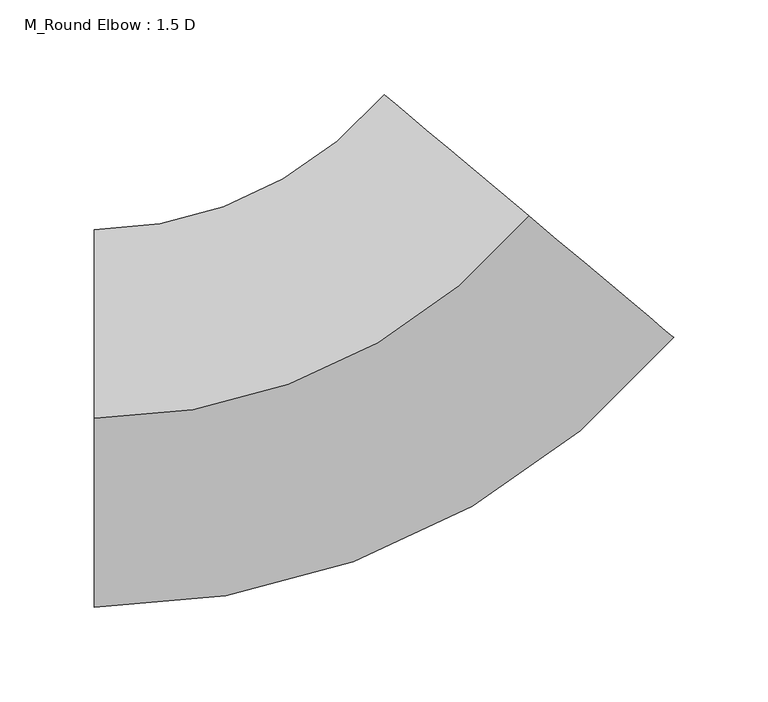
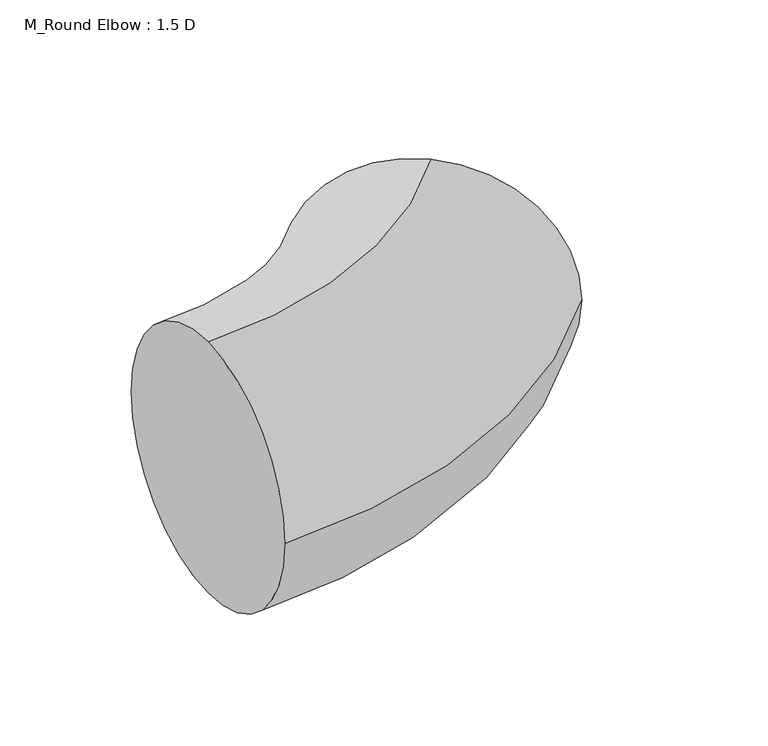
"""IFC4 building model written with IfcOpenShell, lengths in millimetres: duct fitting geometry, M_Round Elbow : 1.5 D."""

from ifc_helpers import new_model, si_unit, point, frame, origin, place, context, project, spatial, circle_curve, ellipse_curve, trimmed, source, transform, mapped, element, save
from ifc_brep_helpers import plane_surface, revolved_surface, advanced_brep


def m_round_elbow_1_5_d_4104341f(model_context):
    return source(origin(), model_context, "Body", "AdvancedBrep", [
        advanced_brep(
        [(-139.8922974, 0.0, 100.0), (-139.8922974, 100.0, 0.0), (-139.8922974, 0.0, -100.0), (-139.8922974, -100.0, 0.0), (89.9210355, 107.1637171, 100.0), (166.5254798, 42.8849561, 0.0), (89.9210355, 107.1637171, -100.0), (13.3165912, 171.4424781, 0.0)],
        [
            (0, 1, circle_curve(frame((-139.8922974, 0.0, 0.0), z_axis=(-1.0, 0.0, 0.0), x_axis=(0.0, 1.0, 0.0)), 100.0)),
            (1, 2, circle_curve(frame((-139.8922974, 0.0, 0.0), z_axis=(-1.0, 0.0, 0.0), x_axis=(0.0, 1.0, 0.0)), 100.0)),
            (2, 3, circle_curve(frame((-139.8922974, 0.0, 0.0), z_axis=(-1.0, 0.0, 0.0), x_axis=(0.0, 1.0, 0.0)), 100.0)),
            (3, 0, circle_curve(frame((-139.8922974, 0.0, 0.0), z_axis=(-1.0, 0.0, 0.0), x_axis=(0.0, 1.0, 0.0)), 100.0)),
            (4, 5, circle_curve(frame((89.9210355, 107.1637171, 0.0), z_axis=(0.6427876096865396, 0.7660444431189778, 0.0), x_axis=(-0.7660444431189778, 0.6427876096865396, 0.0)), 100.0)),
            (5, 6, circle_curve(frame((89.9210355, 107.1637171, 0.0), z_axis=(0.6427876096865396, 0.7660444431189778, 0.0), x_axis=(-0.7660444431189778, 0.6427876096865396, 0.0)), 100.0)),
            (6, 7, circle_curve(frame((89.9210355, 107.1637171, 0.0), z_axis=(0.6427876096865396, 0.7660444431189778, 0.0), x_axis=(-0.7660444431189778, 0.6427876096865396, 0.0)), 100.0)),
            (7, 4, circle_curve(frame((89.9210355, 107.1637171, 0.0), z_axis=(0.6427876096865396, 0.7660444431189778, 0.0), x_axis=(-0.7660444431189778, 0.6427876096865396, 0.0)), 100.0)),
            (7, 1, circle_curve(frame((-139.8922974, 300.0, 0.0), z_axis=(0.0, 0.0, -1.0), x_axis=(0.0, -1.0, 0.0)), 200.0)),
            (0, 4, circle_curve(frame((-139.8922974, 300.0, 100.0), z_axis=(0.0, 0.0, 1.0), x_axis=(0.0, -1.0, 0.0)), 300.0)),
            (6, 2, circle_curve(frame((-139.8922974, 300.0, -100.0), z_axis=(0.0, 0.0, -1.0), x_axis=(0.0, -1.0, 0.0)), 300.0)),
            (5, 3, circle_curve(frame((-139.8922974, 300.0, 0.0), z_axis=(0.0, 0.0, -1.0), x_axis=(0.0, -1.0, 0.0)), 400.0)),
        ],
        [
            plane_surface(frame((-139.8922974, 0.0, 0.0), z_axis=(-1.0, 0.0, 0.0), x_axis=(0.0, 0.0, 1.0))),
            plane_surface(frame((89.9210355, 107.1637171, 0.0), z_axis=(0.6427876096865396, 0.7660444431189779, 0.0), x_axis=(0.0, 0.0, 1.0))),
            revolved_surface(trimmed(ellipse_curve(frame((-139.8922974, 0.0, 0.0), z_axis=(-1.0, 0.0, 0.0), x_axis=(0.0, 1.0, 0.0)), 100.0, 100.0), [point((-139.8922974, 0.0, 100.0))], [point((-139.8922974, 100.0, 0.0))], True, "CARTESIAN"), (-139.8922974, 300.0, 0.0), (0.0, 0.0, 1.0)),
            revolved_surface(trimmed(ellipse_curve(frame((-139.8922974, 0.0, 0.0), z_axis=(-1.0, 0.0, 0.0), x_axis=(0.0, 1.0, 0.0)), 100.0, 100.0), [point((-139.8922974, 100.0, 0.0))], [point((-139.8922974, 0.0, -100.0))], True, "CARTESIAN"), (-139.8922974, 300.0, 0.0), (0.0, 0.0, 1.0)),
            revolved_surface(trimmed(ellipse_curve(frame((-139.8922974, 0.0, 0.0), z_axis=(-1.0, 0.0, 0.0), x_axis=(0.0, 1.0, 0.0)), 100.0, 100.0), [point((-139.8922974, 0.0, -100.0))], [point((-139.8922974, -100.0, 0.0))], True, "CARTESIAN"), (-139.8922974, 300.0, 0.0), (0.0, 0.0, 1.0)),
            revolved_surface(trimmed(ellipse_curve(frame((-139.8922974, 0.0, 0.0), z_axis=(-1.0, 0.0, 0.0), x_axis=(0.0, 1.0, 0.0)), 100.0, 100.0), [point((-139.8922974, -100.0, 0.0))], [point((-139.8922974, 0.0, 100.0))], True, "CARTESIAN"), (-139.8922974, 300.0, 0.0), (0.0, 0.0, 1.0)),
        ],
        [
            (0, [[1, 2, 3, 4]]),
            (1, [[5, 6, 7, 8]]),
            (2, [[9, -1, 10, -8]]),
            (3, [[11, -2, -9, -7]]),
            (4, [[12, -3, -11, -6]]),
            (5, [[-10, -4, -12, -5]]),
        ],
    ),
        advanced_brep(
        [(-139.8922974, 0.0, 100.0), (-139.8922974, 100.0, 0.0), (-139.8922974, 0.0, -100.0), (-139.8922974, -100.0, 0.0), (89.9210355, 107.1637171, 100.0), (166.5254798, 42.8849561, 0.0), (89.9210355, 107.1637171, -100.0), (13.3165912, 171.4424781, 0.0)],
        [
            (0, 1, circle_curve(frame((-139.8922974, 0.0, 0.0), z_axis=(-1.0, 0.0, 0.0), x_axis=(0.0, 1.0, 0.0)), 100.0)),
            (1, 2, circle_curve(frame((-139.8922974, 0.0, 0.0), z_axis=(-1.0, 0.0, 0.0), x_axis=(0.0, 1.0, 0.0)), 100.0)),
            (2, 3, circle_curve(frame((-139.8922974, 0.0, 0.0), z_axis=(-1.0, 0.0, 0.0), x_axis=(0.0, 1.0, 0.0)), 100.0)),
            (3, 0, circle_curve(frame((-139.8922974, 0.0, 0.0), z_axis=(-1.0, 0.0, 0.0), x_axis=(0.0, 1.0, 0.0)), 100.0)),
            (4, 5, circle_curve(frame((89.9210355, 107.1637171, 0.0), z_axis=(0.6427876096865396, 0.7660444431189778, 0.0), x_axis=(-0.7660444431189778, 0.6427876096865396, 0.0)), 100.0)),
            (5, 6, circle_curve(frame((89.9210355, 107.1637171, 0.0), z_axis=(0.6427876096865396, 0.7660444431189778, 0.0), x_axis=(-0.7660444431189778, 0.6427876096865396, 0.0)), 100.0)),
            (6, 7, circle_curve(frame((89.9210355, 107.1637171, 0.0), z_axis=(0.6427876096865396, 0.7660444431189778, 0.0), x_axis=(-0.7660444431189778, 0.6427876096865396, 0.0)), 100.0)),
            (7, 4, circle_curve(frame((89.9210355, 107.1637171, 0.0), z_axis=(0.6427876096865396, 0.7660444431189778, 0.0), x_axis=(-0.7660444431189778, 0.6427876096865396, 0.0)), 100.0)),
            (7, 1, circle_curve(frame((-139.8922974, 300.0, 0.0), z_axis=(0.0, 0.0, -1.0), x_axis=(0.0, -1.0, 0.0)), 200.0)),
            (0, 4, circle_curve(frame((-139.8922974, 300.0, 100.0), z_axis=(0.0, 0.0, 1.0), x_axis=(0.0, -1.0, 0.0)), 300.0)),
            (6, 2, circle_curve(frame((-139.8922974, 300.0, -100.0), z_axis=(0.0, 0.0, -1.0), x_axis=(0.0, -1.0, 0.0)), 300.0)),
            (5, 3, circle_curve(frame((-139.8922974, 300.0, 0.0), z_axis=(0.0, 0.0, -1.0), x_axis=(0.0, -1.0, 0.0)), 400.0)),
        ],
        [
            plane_surface(frame((-139.8922974, 0.0, 0.0), z_axis=(-1.0, 0.0, 0.0), x_axis=(0.0, 0.0, 1.0))),
            plane_surface(frame((89.9210355, 107.1637171, 0.0), z_axis=(0.6427876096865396, 0.7660444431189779, 0.0), x_axis=(0.0, 0.0, 1.0))),
            revolved_surface(trimmed(ellipse_curve(frame((-139.8922974, 0.0, 0.0), z_axis=(-1.0, 0.0, 0.0), x_axis=(0.0, 1.0, 0.0)), 100.0, 100.0), [point((-139.8922974, 0.0, 100.0))], [point((-139.8922974, 100.0, 0.0))], True, "CARTESIAN"), (-139.8922974, 300.0, 0.0), (0.0, 0.0, 1.0)),
            revolved_surface(trimmed(ellipse_curve(frame((-139.8922974, 0.0, 0.0), z_axis=(-1.0, 0.0, 0.0), x_axis=(0.0, 1.0, 0.0)), 100.0, 100.0), [point((-139.8922974, 100.0, 0.0))], [point((-139.8922974, 0.0, -100.0))], True, "CARTESIAN"), (-139.8922974, 300.0, 0.0), (0.0, 0.0, 1.0)),
            revolved_surface(trimmed(ellipse_curve(frame((-139.8922974, 0.0, 0.0), z_axis=(-1.0, 0.0, 0.0), x_axis=(0.0, 1.0, 0.0)), 100.0, 100.0), [point((-139.8922974, 0.0, -100.0))], [point((-139.8922974, -100.0, 0.0))], True, "CARTESIAN"), (-139.8922974, 300.0, 0.0), (0.0, 0.0, 1.0)),
            revolved_surface(trimmed(ellipse_curve(frame((-139.8922974, 0.0, 0.0), z_axis=(-1.0, 0.0, 0.0), x_axis=(0.0, 1.0, 0.0)), 100.0, 100.0), [point((-139.8922974, -100.0, 0.0))], [point((-139.8922974, 0.0, 100.0))], True, "CARTESIAN"), (-139.8922974, 300.0, 0.0), (0.0, 0.0, 1.0)),
        ],
        [
            (0, [[1, 2, 3, 4]]),
            (1, [[5, 6, 7, 8]]),
            (2, [[9, -1, 10, -8]]),
            (3, [[11, -2, -9, -7]]),
            (4, [[12, -3, -11, -6]]),
            (5, [[-10, -4, -12, -5]]),
        ],
    ),
        advanced_brep(
        [(-139.8922974, 0.0, 100.0), (-139.8922974, 100.0, 0.0), (-139.8922974, 0.0, -100.0), (-139.8922974, -100.0, 0.0), (89.9210355, 107.1637171, 100.0), (166.5254798, 42.8849561, 0.0), (89.9210355, 107.1637171, -100.0), (13.3165912, 171.4424781, 0.0)],
        [
            (0, 1, circle_curve(frame((-139.8922974, 0.0, 0.0), z_axis=(-1.0, 0.0, 0.0), x_axis=(0.0, 1.0, 0.0)), 100.0)),
            (1, 2, circle_curve(frame((-139.8922974, 0.0, 0.0), z_axis=(-1.0, 0.0, 0.0), x_axis=(0.0, 1.0, 0.0)), 100.0)),
            (2, 3, circle_curve(frame((-139.8922974, 0.0, 0.0), z_axis=(-1.0, 0.0, 0.0), x_axis=(0.0, 1.0, 0.0)), 100.0)),
            (3, 0, circle_curve(frame((-139.8922974, 0.0, 0.0), z_axis=(-1.0, 0.0, 0.0), x_axis=(0.0, 1.0, 0.0)), 100.0)),
            (4, 5, circle_curve(frame((89.9210355, 107.1637171, 0.0), z_axis=(0.6427876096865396, 0.7660444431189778, 0.0), x_axis=(-0.7660444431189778, 0.6427876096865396, 0.0)), 100.0)),
            (5, 6, circle_curve(frame((89.9210355, 107.1637171, 0.0), z_axis=(0.6427876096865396, 0.7660444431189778, 0.0), x_axis=(-0.7660444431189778, 0.6427876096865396, 0.0)), 100.0)),
            (6, 7, circle_curve(frame((89.9210355, 107.1637171, 0.0), z_axis=(0.6427876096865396, 0.7660444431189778, 0.0), x_axis=(-0.7660444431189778, 0.6427876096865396, 0.0)), 100.0)),
            (7, 4, circle_curve(frame((89.9210355, 107.1637171, 0.0), z_axis=(0.6427876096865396, 0.7660444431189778, 0.0), x_axis=(-0.7660444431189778, 0.6427876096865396, 0.0)), 100.0)),
            (7, 1, circle_curve(frame((-139.8922974, 300.0, 0.0), z_axis=(0.0, 0.0, -1.0), x_axis=(0.0, -1.0, 0.0)), 200.0)),
            (0, 4, circle_curve(frame((-139.8922974, 300.0, 100.0), z_axis=(0.0, 0.0, 1.0), x_axis=(0.0, -1.0, 0.0)), 300.0)),
            (6, 2, circle_curve(frame((-139.8922974, 300.0, -100.0), z_axis=(0.0, 0.0, -1.0), x_axis=(0.0, -1.0, 0.0)), 300.0)),
            (5, 3, circle_curve(frame((-139.8922974, 300.0, 0.0), z_axis=(0.0, 0.0, -1.0), x_axis=(0.0, -1.0, 0.0)), 400.0)),
        ],
        [
            plane_surface(frame((-139.8922974, 0.0, 0.0), z_axis=(-1.0, 0.0, 0.0), x_axis=(0.0, 0.0, 1.0))),
            plane_surface(frame((89.9210355, 107.1637171, 0.0), z_axis=(0.6427876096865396, 0.7660444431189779, 0.0), x_axis=(0.0, 0.0, 1.0))),
            revolved_surface(trimmed(ellipse_curve(frame((-139.8922974, 0.0, 0.0), z_axis=(-1.0, 0.0, 0.0), x_axis=(0.0, 1.0, 0.0)), 100.0, 100.0), [point((-139.8922974, 0.0, 100.0))], [point((-139.8922974, 100.0, 0.0))], True, "CARTESIAN"), (-139.8922974, 300.0, 0.0), (0.0, 0.0, 1.0)),
            revolved_surface(trimmed(ellipse_curve(frame((-139.8922974, 0.0, 0.0), z_axis=(-1.0, 0.0, 0.0), x_axis=(0.0, 1.0, 0.0)), 100.0, 100.0), [point((-139.8922974, 100.0, 0.0))], [point((-139.8922974, 0.0, -100.0))], True, "CARTESIAN"), (-139.8922974, 300.0, 0.0), (0.0, 0.0, 1.0)),
            revolved_surface(trimmed(ellipse_curve(frame((-139.8922974, 0.0, 0.0), z_axis=(-1.0, 0.0, 0.0), x_axis=(0.0, 1.0, 0.0)), 100.0, 100.0), [point((-139.8922974, 0.0, -100.0))], [point((-139.8922974, -100.0, 0.0))], True, "CARTESIAN"), (-139.8922974, 300.0, 0.0), (0.0, 0.0, 1.0)),
            revolved_surface(trimmed(ellipse_curve(frame((-139.8922974, 0.0, 0.0), z_axis=(-1.0, 0.0, 0.0), x_axis=(0.0, 1.0, 0.0)), 100.0, 100.0), [point((-139.8922974, -100.0, 0.0))], [point((-139.8922974, 0.0, 100.0))], True, "CARTESIAN"), (-139.8922974, 300.0, 0.0), (0.0, 0.0, 1.0)),
        ],
        [
            (0, [[1, 2, 3, 4]]),
            (1, [[5, 6, 7, 8]]),
            (2, [[9, -1, 10, -8]]),
            (3, [[11, -2, -9, -7]]),
            (4, [[12, -3, -11, -6]]),
            (5, [[-10, -4, -12, -5]]),
        ],
    ),
    ])


if __name__ == "__main__":
    model = new_model("IFC4")
    model_context = context("Model", 3, world=origin())
    ifc_project = project(units=[si_unit("LENGTHUNIT", "METRE", prefix="MILLI")], contexts=[model_context])
    site = spatial("IfcSite", under=ifc_project)
    building = spatial("IfcBuilding", under=site)
    placement = place(None, origin())
    m_round_elbow_1_5_d_shape = m_round_elbow_1_5_d_4104341f(model_context)
    element("IfcDuctFitting", 1, ObjectType="M_Round Elbow : 1.5 D", at=placement, inside=building, context=model_context, shape_type="MappedRepresentation", body=[
        mapped(m_round_elbow_1_5_d_shape, transform((0.0, 0.0, 0.0), x_axis=(1.0, 0.0, 0.0), y_axis=(0.0, 1.0, 0.0), z_axis=(0.0, 0.0, 1.0))),
    ])
    save(model, "model.ifc")
